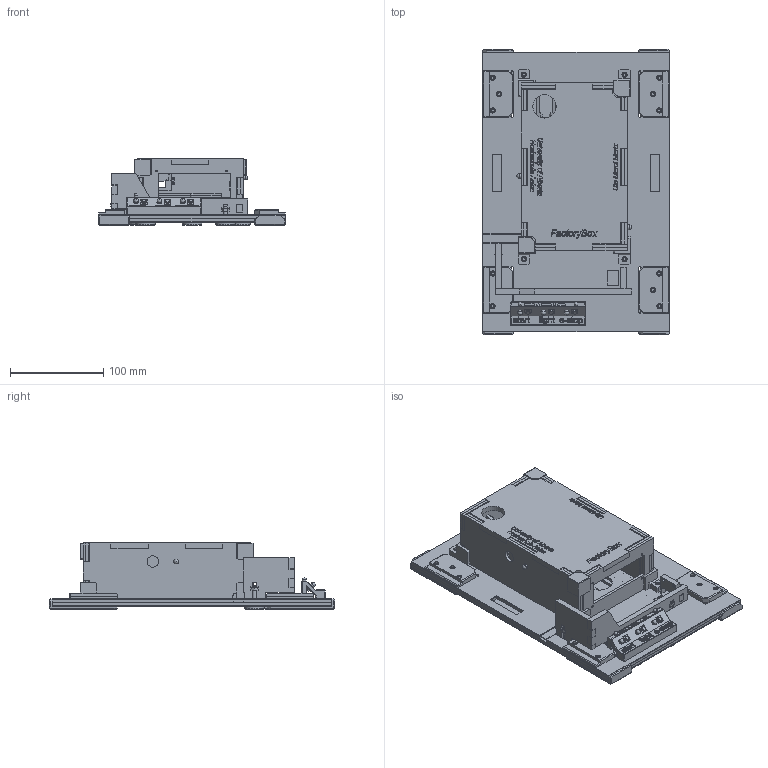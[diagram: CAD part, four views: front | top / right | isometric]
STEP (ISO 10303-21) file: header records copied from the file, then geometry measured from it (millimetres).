
FILE_DESCRIPTION(/* description */ (''),/* implementation_level */ '2;1');
FILE_NAME(/* name */ '000_FactoryBox.stp',/* time_stamp */ '2026-03-02T15:39:43-07:00',/* author */ (''),/* organization */ (''),/* preprocessor_version */ 'ST-DEVELOPER v18.1',/* originating_system */ 'SIEMENS PLM Software NX 1980',/* authorisation */ '');
FILE_SCHEMA (('AUTOMOTIVE_DESIGN { 1 0 10303 214 3 1 1 1 }'));
Products named in the file (42): PH_button; SP_M4_Mutter; SP_M4_25mm; SP_M4_20mm; SP_M4_16mm; 3D_CNC_edgepart; 3D_CNC_edgepart_1; 3D_CNC_edgepart_2; 3D_edgepart_center; 3D_topper_middle; 3D_edgecap_middle_2; 3D_edgecap_middle_1; PH_Wago_5; 3D_cableholder; PH_I2C_GPIO; PH_ESP; PH_LED_blue; PH_LED_red; PH_LED; PH_StepDown; CNC_top; CNC_right_2; CNC_right_1; CNC_right_0; CNC_left_2; CNC_left_1; CNC_left_0; CNC_back_2; CNC_back_1; CNC_back_0; CNC_front_2; CNC_front_1; CNC_front_0; 3D_control_panel; CNC_cage_VLX_mounting; CNC_cage_1; CNC_cage_0; bottomplate_middle_3; bottomplate_middle_2; bottomplate_middle_1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
Assembly tree (79 placements, depth 2):
  002_Box_Middle
    bottomplate_middle_0
    bottomplate_middle_1
    bottomplate_middle_2
    bottomplate_middle_3
    CNC_cage_0
    CNC_cage_1
    CNC_cage_VLX_mounting
    3D_control_panel
    CNC_front_0
    CNC_front_1
    CNC_front_2
    CNC_back_0
    CNC_back_1
    CNC_back_2
    CNC_left_0
    CNC_left_1
    CNC_left_2
    CNC_right_0
    CNC_right_1
    CNC_right_2
    CNC_top
    PH_StepDown
    PH_LED  x2
    PH_LED_red  x2
    PH_LED_blue
    PH_ESP
    PH_I2C_GPIO
    3D_cableholder
    PH_Wago_5  x2
    3D_edgecap_middle_1  x2
    3D_edgecap_middle_2  x2
    3D_topper_middle  x4
    3D_edgepart_center  x8
    3D_CNC_edgepart_2  x2
    3D_CNC_edgepart_1  x2
    3D_CNC_edgepart  x2
    SP_M4_16mm  x18
    SP_M4_20mm
    SP_M4_25mm
    SP_M4_Mutter  x2
    PH_button  x3
Bounding box: 200 x 306 x 71 mm (x, y, z)
Volume: 938078.6 mm3; surface area: 785677.5 mm2
Topology: 82 solids, 82 shells, 2783 faces, 7235 edges, 4778 vertices
Faces by surface type: plane 2146, cylinder 288, extrusion 224, cone 98, torus 20, sphere 7
Full cylindrical faces by diameter (mm): 2 x4, 3 x2, 3.242 x2, 4 x45, 4.5 x96, 5 x6, 5.2 x5, 5.5 x18, 6 x5, 7 x3, 8 x2, 8.4 x20, 12.2 x1, 21 x8, 25 x1
Entity records: 71596 total; most frequent: CARTESIAN_POINT 19767, ORIENTED_EDGE 10852, DIRECTION 8792, EDGE_CURVE 5426, VECTOR 4030, LINE 3806, VERTEX_POINT 3676, EDGE_LOOP 2722
